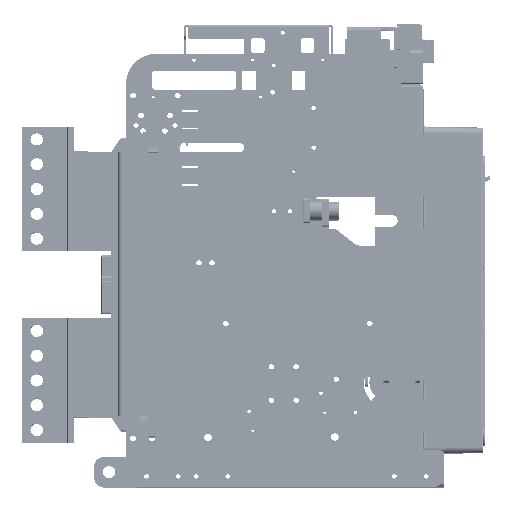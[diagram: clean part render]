
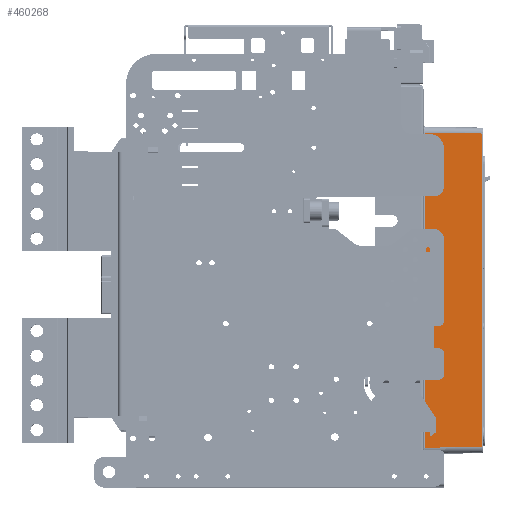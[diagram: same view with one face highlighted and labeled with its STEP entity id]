
A CAD part, top view. The second image highlights one B-rep face of the part: STEP entity #460268.
In plain terms, the highlighted planar face has unit normal (0.018, 0, 1) as drawn and (-1, 0, 0.017) by its records, which use the part's own axes.
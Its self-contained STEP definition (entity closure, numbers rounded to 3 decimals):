
#441648=DIRECTION('',(0.,-1.,0.));
#441649=VECTOR('',#441648,315.942);
#441650=CARTESIAN_POINT('',(-133.97,144.321,
108.017));
#441651=LINE('',#441650,#441649);
#441652=DIRECTION('',(0.017,0.017,1.));
#441653=VECTOR('',#441652,57.07);
#441654=CARTESIAN_POINT('',(-134.966,-172.617,
50.965));
#441655=LINE('',#441654,#441653);
#441656=DIRECTION('',(0.,1.,0.));
#441657=VECTOR('',#441656,317.934);
#441658=CARTESIAN_POINT('',(-134.966,-172.617,
50.965));
#441659=LINE('',#441658,#441657);
#441660=DIRECTION('',(-0.017,0.017,-1.));
#441661=VECTOR('',#441660,57.07);
#441662=CARTESIAN_POINT('',(-133.97,144.321,
108.017));
#441663=LINE('',#441662,#441661);
#456252=CARTESIAN_POINT('',(-133.97,144.321,
108.017));
#459243=CARTESIAN_POINT('',(-134.966,-172.617,
50.965));
#459244=CARTESIAN_POINT('',(-134.966,145.317,
50.965));
#459245=VERTEX_POINT('',#459243);
#459246=VERTEX_POINT('',#459244);
#459284=VERTEX_POINT('',#456252);
#459287=CARTESIAN_POINT('',(-133.97,-171.621,
108.017));
#459288=VERTEX_POINT('',#459287);
#460254=CARTESIAN_POINT('',(-135.,151.35,49.));
#460255=DIRECTION('',(-1.,0.,0.017));
#460256=DIRECTION('',(0.,-1.,0.));
#460257=AXIS2_PLACEMENT_3D('',#460254,#460255,#460256);
#460258=PLANE('',#460257);
#460260=ORIENTED_EDGE('',*,*,#460259,.T.);
#460262=ORIENTED_EDGE('',*,*,#460261,.F.);
#460263=ORIENTED_EDGE('',*,*,#460244,.T.);
#460265=ORIENTED_EDGE('',*,*,#460264,.F.);
#460266=EDGE_LOOP('',(#460260,#460262,#460263,#460265));
#460267=FACE_OUTER_BOUND('',#460266,.F.);
#460268=ADVANCED_FACE('',(#460267),#460258,.T.);
#460244=EDGE_CURVE('',#459245,#459246,#441659,.T.);
#460259=EDGE_CURVE('',#459284,#459288,#441651,.T.);
#460261=EDGE_CURVE('',#459245,#459288,#441655,.T.);
#460264=EDGE_CURVE('',#459284,#459246,#441663,.T.);
